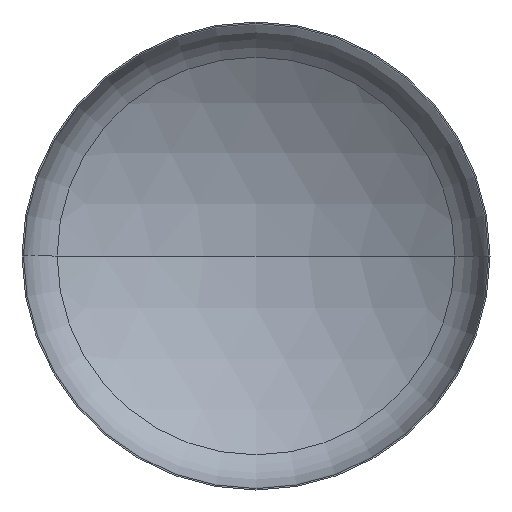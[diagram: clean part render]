
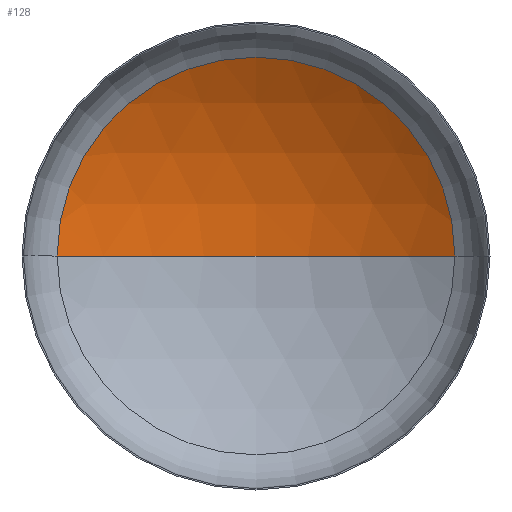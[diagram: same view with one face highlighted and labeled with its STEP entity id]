
A CAD part, front view. The second image highlights one B-rep face of the part: STEP entity #128.
In plain terms, the highlighted spherical face has radius 4400 mm.
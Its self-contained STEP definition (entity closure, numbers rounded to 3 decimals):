
#2 = CIRCLE ( 'NONE', #334, 4400. ) ;
#6 = CARTESIAN_POINT ( 'NONE',  ( 0., 1442.778, 0. ) ) ;
#52 = EDGE_CURVE ( 'NONE', #129, #331, #191, .T. ) ;
#58 = EDGE_CURVE ( 'NONE', #368, #331, #182, .T. ) ;
#68 = DIRECTION ( 'NONE',  ( 0., 0., 1. ) ) ;
#97 = SPHERICAL_SURFACE ( 'NONE', #355, 4400. ) ;
#105 = DIRECTION ( 'NONE',  ( -1., 0., 0. ) ) ;
#106 = CARTESIAN_POINT ( 'NONE',  ( 0., -2957.222, 0. ) ) ;
#107 = FACE_OUTER_BOUND ( 'NONE', #156, .T. ) ;
#127 = CARTESIAN_POINT ( 'NONE',  ( 0., 770.985, 0. ) ) ;
#128 = ADVANCED_FACE ( 'NONE', ( #107 ), #97, .F. ) ;
#129 = VERTEX_POINT ( 'NONE', #6 ) ;
#133 = DIRECTION ( 'NONE',  ( -1., 0., 0. ) ) ;
#135 = ORIENTED_EDGE ( 'NONE', *, *, #167, .T. ) ;
#153 = DIRECTION ( 'NONE',  ( 1., 0., 0. ) ) ;
#156 = EDGE_LOOP ( 'NONE', ( #358, #135, #203 ) ) ;
#167 = EDGE_CURVE ( 'NONE', #129, #368, #2, .T. ) ;
#182 = CIRCLE ( 'NONE', #399, 2336.765 ) ;
#191 = CIRCLE ( 'NONE', #407, 4400. ) ;
#202 = CARTESIAN_POINT ( 'NONE',  ( 2336.765, 770.985, 0. ) ) ;
#203 = ORIENTED_EDGE ( 'NONE', *, *, #58, .T. ) ;
#251 = CARTESIAN_POINT ( 'NONE',  ( 0., -2957.222, 0. ) ) ;
#284 = DIRECTION ( 'NONE',  ( 1., 0., 0. ) ) ;
#290 = DIRECTION ( 'NONE',  ( 0., 0., -1. ) ) ;
#324 = DIRECTION ( 'NONE',  ( 0., 0., -1. ) ) ;
#331 = VERTEX_POINT ( 'NONE', #369 ) ;
#334 = AXIS2_PLACEMENT_3D ( 'NONE', #106, #324, #133 ) ;
#348 = DIRECTION ( 'NONE',  ( 0., -1., 0. ) ) ;
#355 = AXIS2_PLACEMENT_3D ( 'NONE', #411, #290, #105 ) ;
#358 = ORIENTED_EDGE ( 'NONE', *, *, #52, .F. ) ;
#368 = VERTEX_POINT ( 'NONE', #202 ) ;
#369 = CARTESIAN_POINT ( 'NONE',  ( -2336.765, 770.985, 0. ) ) ;
#399 = AXIS2_PLACEMENT_3D ( 'NONE', #127, #348, #153 ) ;
#407 = AXIS2_PLACEMENT_3D ( 'NONE', #251, #68, #284 ) ;
#411 = CARTESIAN_POINT ( 'NONE',  ( 0., -2957.222, 0. ) ) ;
